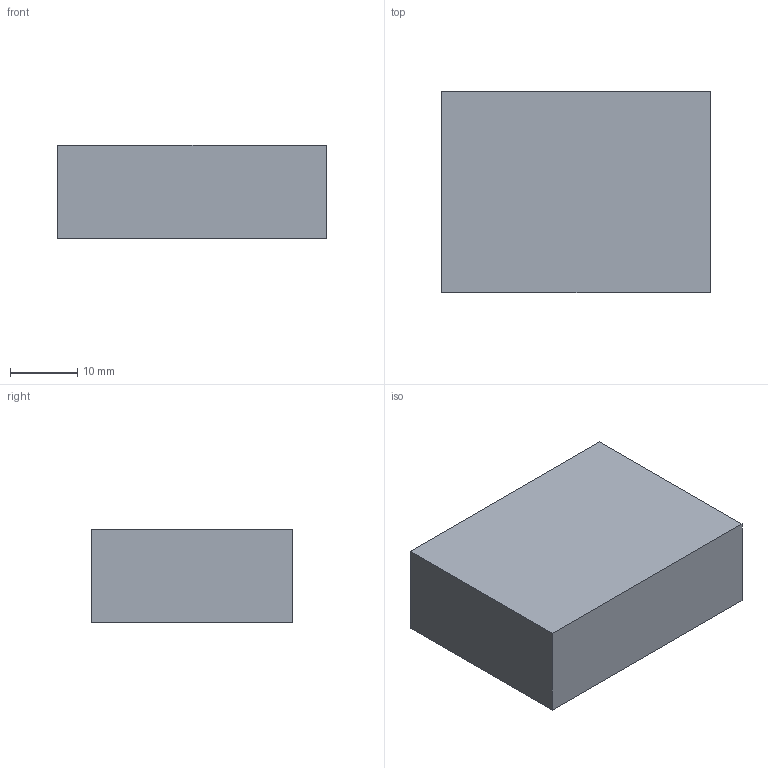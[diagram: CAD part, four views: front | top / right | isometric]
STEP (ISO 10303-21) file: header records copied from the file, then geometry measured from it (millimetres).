
FILE_DESCRIPTION(('Open CASCADE Model'),'2;1');
FILE_NAME('prop_valve','2026-08-12T02:42:45',('Author'),('Open CASCADE') ,'Open CASCADE STEP processor 7.9','build123d','Unknown');
FILE_SCHEMA(('AUTOMOTIVE_DESIGN { 1 0 10303 214 1 1 1 1 }'));
Length unit declared in the file: millimetre
Products named in the file (2): prop_valve
Assembly tree (1 placements, depth 2):
  prop_valve
    prop_valve
Bounding box: 40 x 30 x 14 mm (x, y, z)
Volume: 16800 mm3; surface area: 4360 mm2
Topology: 1 solids, 1 shells, 6 faces, 12 edges, 8 vertices
Faces by surface type: plane 6
Entity records: 340 total; most frequent: CARTESIAN_POINT 52, DIRECTION 52, LINE 36, VECTOR 36, ORIENTED_EDGE 24, PCURVE 24, DEFINITIONAL_REPRESENTATION 24, EDGE_CURVE 12
